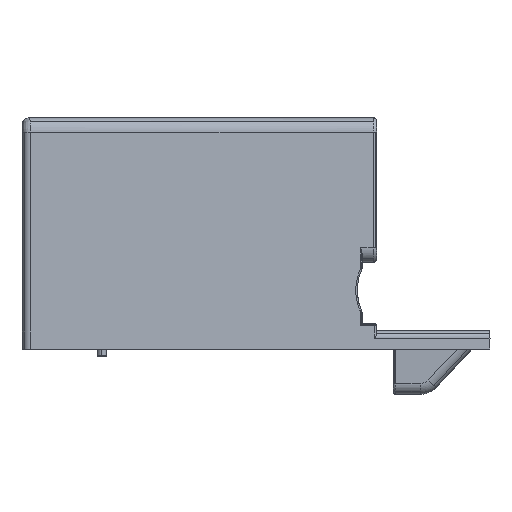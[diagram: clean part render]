
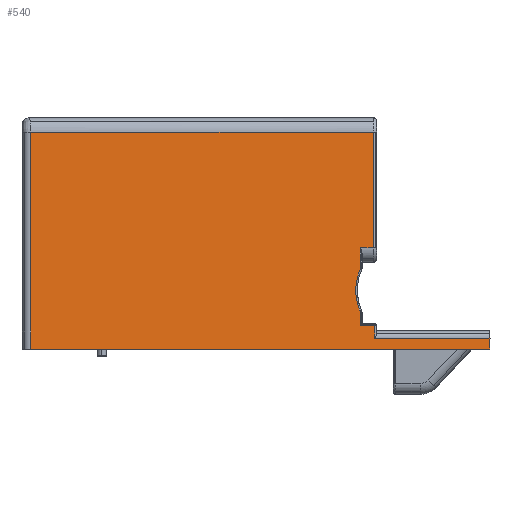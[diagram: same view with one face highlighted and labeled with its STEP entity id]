
A CAD part, left-side view. The second image highlights one B-rep face of the part: STEP entity #540.
In plain terms, the highlighted planar face has unit normal (-0.991, -0.133, 0).
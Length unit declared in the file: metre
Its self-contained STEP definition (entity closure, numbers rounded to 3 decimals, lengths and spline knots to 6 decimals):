
#540=ADVANCED_FACE('0:1094',(#1557),#1558,.T.);
#1557=FACE_OUTER_BOUND('',#8141,.T.);
#1558=PLANE('',#8142);
#8141=EDGE_LOOP('',(#13890,#13891,#13892,#13893,#13894,#13895,#13896,#13897,#13898,#13899,#13900,#13901,#13902,#13903));
#8142=AXIS2_PLACEMENT_3D('',#13904,#13905,#13906);
#13890=ORIENTED_EDGE('',*,*,#15349,.F.);
#13891=ORIENTED_EDGE('',*,*,#15347,.F.);
#13892=ORIENTED_EDGE('',*,*,#14844,.T.);
#13893=ORIENTED_EDGE('',*,*,#14951,.T.);
#13894=ORIENTED_EDGE('',*,*,#14949,.F.);
#13895=ORIENTED_EDGE('',*,*,#14476,.F.);
#13896=ORIENTED_EDGE('',*,*,#14948,.F.);
#13897=ORIENTED_EDGE('',*,*,#14947,.F.);
#13898=ORIENTED_EDGE('',*,*,#14945,.F.);
#13899=ORIENTED_EDGE('',*,*,#14943,.F.);
#13900=ORIENTED_EDGE('',*,*,#14484,.F.);
#13901=ORIENTED_EDGE('',*,*,#15302,.T.);
#13902=ORIENTED_EDGE('',*,*,#15312,.F.);
#13903=ORIENTED_EDGE('',*,*,#15350,.F.);
#13904=CARTESIAN_POINT('',(0.014487,-0.046125,-0.01454));
#13905=DIRECTION('',(-0.991,-0.133,0.));
#13906=DIRECTION('',(0.133,-0.991,0.));
#14476=EDGE_CURVE('0:2336',#16231,#16233,#16234,.T.);
#14484=EDGE_CURVE('0:2309',#16246,#16248,#16249,.T.);
#14844=EDGE_CURVE('0:1955',#16861,#16859,#16862,.T.);
#14943=EDGE_CURVE('0:2315',#16248,#16998,#17000,.T.);
#14945=EDGE_CURVE('0:2321',#16998,#17001,#17003,.T.);
#14947=EDGE_CURVE('0:2327',#17001,#17004,#17006,.T.);
#14948=EDGE_CURVE('0:2333',#17004,#16231,#17007,.T.);
#14949=EDGE_CURVE('0:2339',#16233,#17008,#17009,.T.);
#14951=EDGE_CURVE('0:2345',#16859,#17008,#17011,.T.);
#15302=EDGE_CURVE('0:3713',#16246,#17478,#17480,.T.);
#15312=EDGE_CURVE('0:3749',#17489,#17478,#17491,.T.);
#15347=EDGE_CURVE('0:3872',#16861,#17540,#17541,.T.);
#15349=EDGE_CURVE('0:3875',#17540,#17543,#17544,.T.);
#15350=EDGE_CURVE('0:3878',#17543,#17489,#17545,.T.);
#16231=VERTEX_POINT('',#18794);
#16233=VERTEX_POINT('',#18796);
#16234=LINE('',#18797,#18798);
#16246=VERTEX_POINT('',#18813);
#16248=VERTEX_POINT('',#18824);
#16249=LINE('',#18825,#18826);
#16859=VERTEX_POINT('',#19751);
#16861=VERTEX_POINT('',#19753);
#16862=LINE('',#19754,#19755);
#16998=VERTEX_POINT('',#20040);
#17000=ELLIPSE('',#20042,0.000757,0.00075);
#17001=VERTEX_POINT('',#20043);
#17003=ELLIPSE('',#20045,0.007316,0.00725);
#17004=VERTEX_POINT('',#20046);
#17006=ELLIPSE('',#20048,0.000757,0.00075);
#17007=LINE('',#20049,#20050);
#17008=VERTEX_POINT('',#20051);
#17009=LINE('',#20052,#20053);
#17011=LINE('',#20064,#20065);
#17478=VERTEX_POINT('',#21060);
#17480=LINE('',#21062,#21063);
#17489=VERTEX_POINT('',#21073);
#17491=LINE('',#21075,#21076);
#17540=VERTEX_POINT('',#21378);
#17541=LINE('',#21379,#21380);
#17543=VERTEX_POINT('',#21382);
#17544=LINE('',#21383,#21384);
#17545=LINE('',#21385,#21386);
#18794=CARTESIAN_POINT('',(0.010425,-0.015911,-0.029415));
#18796=CARTESIAN_POINT('',(0.010694,-0.017911,-0.029415));
#18797=CARTESIAN_POINT('',(0.012517,-0.031465,-0.029415));
#18798=VECTOR('',#22375,1.0);
#18813=CARTESIAN_POINT('',(0.010425,-0.015911,-0.018665));
#18824=CARTESIAN_POINT('',(0.010425,-0.015911,-0.021352));
#18825=CARTESIAN_POINT('',(0.010425,-0.015911,-0.023603));
#18826=VECTOR('',#22388,1.0);
#19751=CARTESIAN_POINT('',(0.012834,-0.033826,-0.031165));
#19753=CARTESIAN_POINT('',(0.012834,-0.033826,-0.032665));
#19754=CARTESIAN_POINT('',(0.012834,-0.033826,-0.023603));
#19755=VECTOR('',#22887,1.0);
#20040=CARTESIAN_POINT('',(0.010417,-0.015848,-0.021651));
#20042=AXIS2_PLACEMENT_3D('',#23086,#23087,#23088);
#20043=CARTESIAN_POINT('',(0.010417,-0.015848,-0.02743));
#20045=AXIS2_PLACEMENT_3D('',#23092,#23093,#23094);
#20046=CARTESIAN_POINT('',(0.010425,-0.015911,-0.027728));
#20048=AXIS2_PLACEMENT_3D('',#23098,#23099,#23100);
#20049=CARTESIAN_POINT('',(0.010425,-0.015911,-0.023603));
#20050=VECTOR('',#23101,1.0);
#20051=CARTESIAN_POINT('',(0.010694,-0.017911,-0.031165));
#20052=CARTESIAN_POINT('',(0.010694,-0.017911,-0.022353));
#20053=VECTOR('',#23102,1.0);
#20064=CARTESIAN_POINT('',(0.013215,-0.036658,-0.031165));
#20065=VECTOR('',#23103,1.0);
#21060=CARTESIAN_POINT('',(0.010665,-0.017694,-0.018665));
#21062=CARTESIAN_POINT('',(0.013613,-0.039618,-0.018665));
#21063=VECTOR('',#23770,1.0);
#21073=CARTESIAN_POINT('',(0.010665,-0.017694,-0.002665));
#21075=CARTESIAN_POINT('',(0.010665,-0.017694,-0.023603));
#21076=VECTOR('',#23796,1.0);
#21378=CARTESIAN_POINT('',(0.004289,0.029737,-0.032665));
#21379=CARTESIAN_POINT('',(0.009712,-0.010602,-0.032665));
#21380=VECTOR('',#23831,1.);
#21382=CARTESIAN_POINT('',(0.004289,0.029737,-0.002665));
#21383=CARTESIAN_POINT('',(0.004289,0.029737,-0.023603));
#21384=VECTOR('',#23835,1.0);
#21385=CARTESIAN_POINT('',(0.009864,-0.011732,-0.002665));
#21386=VECTOR('',#23836,1.0);
#22375=DIRECTION('',(0.133,-0.991,0.));
#22388=DIRECTION('',(0.,0.,-1.0));
#22887=DIRECTION('',(0.,0.,1.0));
#23086=CARTESIAN_POINT('',(0.010325,-0.015161,-0.021352));
#23087=DIRECTION('',(0.991,0.133,0.));
#23088=DIRECTION('',(0.133,-0.991,0.));
#23092=CARTESIAN_POINT('',(0.011311,-0.022498,-0.02454));
#23093=DIRECTION('',(-0.991,-0.133,0.));
#23094=DIRECTION('',(-0.133,0.991,0.));
#23098=CARTESIAN_POINT('',(0.010325,-0.015161,-0.027728));
#23099=DIRECTION('',(0.991,0.133,0.));
#23100=DIRECTION('',(0.133,-0.991,0.));
#23101=DIRECTION('',(0.,0.,-1.0));
#23102=DIRECTION('',(0.,0.,-1.0));
#23103=DIRECTION('',(-0.133,0.991,0.));
#23770=DIRECTION('',(0.133,-0.991,0.));
#23796=DIRECTION('',(0.,0.,-1.0));
#23831=DIRECTION('',(-0.133,0.991,0.));
#23835=DIRECTION('',(0.,0.,1.0));
#23836=DIRECTION('',(0.133,-0.991,0.));
